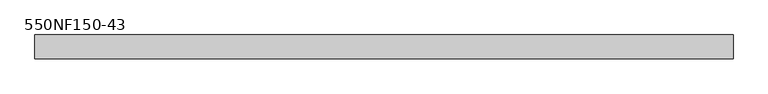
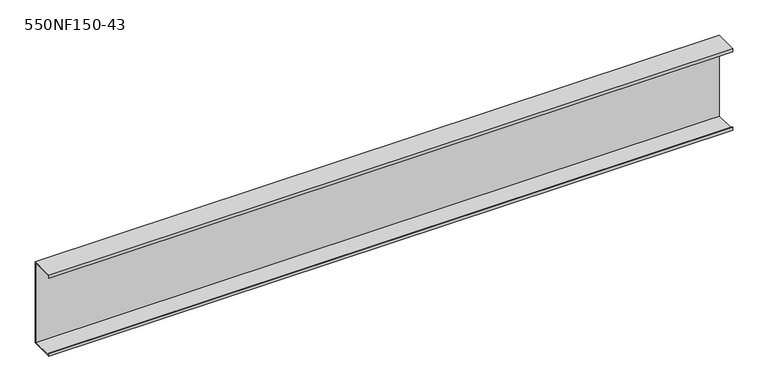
"""IFC4 building model written with IfcOpenShell, lengths in millimetres: beam geometry, BIMSF-SSMA-S : 550NF150-43."""

import ifcopenshell
import ifcopenshell.guid

model = None  # the IFC model being written
_history = None  # IfcOwnerHistory: only IFC2X3 demands one
_inside = {}  # id of a spatial element -> (the spatial element, [elements in it])
_under = {}  # id of a project, library or spatial element -> (it, [spatial elements below it])
_declared = {}  # id of a project -> (the project, [libraries it declares])
_typed = {}  # id of a type object -> (the type object, [elements of that type])
_made_of = {}  # id of a material, layer set ... -> (it, [elements and type objects made of it])


def new_model(schema):
    """Start an empty IFC model of exactly this schema.

    Asked for "IFC4X3", IfcOpenShell would pick the latest addendum, in which some entities
    have other attributes; the version numbers below select the first issue.
    IFC2X3 requires an IfcOwnerHistory on every rooted entity: one is made here for all.
    """
    global model, _history
    if schema == "IFC4X3":
        model = ifcopenshell.file(schema_version=(4, 3, 0, 0))
    else:
        model = ifcopenshell.file(schema=schema)
    _inside.clear()
    _under.clear()
    _declared.clear()
    _typed.clear()
    _made_of.clear()
    _history = None
    if model.schema == "IFC2X3":
        org = make("IfcOrganization", Name="unknown")
        user = make(
            "IfcPersonAndOrganization",
            ThePerson=make("IfcPerson", FamilyName="unknown"),
            TheOrganization=org,
        )
        app = make(
            "IfcApplication",
            ApplicationDeveloper=org,
            Version="unknown",
            ApplicationFullName="unknown",
            ApplicationIdentifier="unknown",
        )
        _history = make(
            "IfcOwnerHistory",
            OwningUser=user,
            OwningApplication=app,
            ChangeAction="ADDED",
            CreationDate=0,
        )
    return model


def make(cls, **values):
    """One entity of the class cls with the attributes given. An attribute that is None is left unset."""
    return model.create_entity(
        cls, **{name: value for name, value in values.items() if value is not None}
    )


def rooted(cls, **values):
    """An entity with a GlobalId (a new one), such as an element, a storey or a relation."""
    return make(cls, GlobalId=ifcopenshell.guid.new(), OwnerHistory=_history, **values)


def si_unit(unit_type, name, prefix=None):
    """IfcSIUnit, for example si_unit("LENGTHUNIT", "METRE", prefix="MILLI")."""
    return make("IfcSIUnit", UnitType=unit_type, Prefix=prefix, Name=name)


def assignment(units):
    """IfcUnitAssignment: the units of a project."""
    return None if units is None else make("IfcUnitAssignment", Units=units)


def point(xyz):
    """IfcCartesianPoint."""
    return None if xyz is None else make("IfcCartesianPoint", Coordinates=xyz)


def direction(xyz):
    """IfcDirection."""
    return None if xyz is None else make("IfcDirection", DirectionRatios=xyz)


def frame(location, z_axis=None, x_axis=None):
    """IfcAxis2Placement3D, a coordinate frame: its origin and axes. An axis left out is left unset."""
    return make(
        "IfcAxis2Placement3D",
        Location=point(location),
        Axis=direction(z_axis),
        RefDirection=direction(x_axis),
    )


def origin():
    """The frame at (0, 0, 0) with its axes left unset."""
    return frame((0.0, 0.0, 0.0))


def place(relative_to, where):
    """IfcLocalPlacement: puts the frame where relative to a parent placement (None: the world)."""
    return make(
        "IfcLocalPlacement", PlacementRelTo=relative_to, RelativePlacement=where
    )


def context(
    kind, dimensions, precision=None, world=None, true_north=None, identifier=None
):
    """IfcGeometricRepresentationContext, for example the 3D "Model" context."""
    return make(
        "IfcGeometricRepresentationContext",
        ContextIdentifier=identifier,
        ContextType=kind,
        CoordinateSpaceDimension=dimensions,
        Precision=precision,
        WorldCoordinateSystem=world,
        TrueNorth=true_north,
    )


def project(units=None, contexts=None):
    """IfcProject with its units and contexts."""
    return rooted(
        "IfcProject",
        Name="project",
        RepresentationContexts=contexts,
        UnitsInContext=assignment(units),
    )


def spatial(cls, under=None, at=None, **own):
    """A site, building, storey or space (cls), placed at a placement, below another one or the project."""
    s = rooted(cls, ObjectPlacement=at, **own)
    if under is not None:
        _under.setdefault(under.id(), (under, []))[1].append(s)
    return s


def polyline(points):
    """IfcPolyline through the points."""
    return make("IfcPolyline", Points=[point(p) for p in points])


def outline(outer, holes=None, kind="AREA"):
    """IfcArbitraryClosedProfileDef: a profile drawn as a closed curve; with holes, ...WithVoids."""
    if holes is None:
        return make("IfcArbitraryClosedProfileDef", ProfileType=kind, OuterCurve=outer)
    return make(
        "IfcArbitraryProfileDefWithVoids",
        ProfileType=kind,
        OuterCurve=outer,
        InnerCurves=holes,
    )


def extrude(swept, where, along, depth):
    """IfcExtrudedAreaSolid: the profile swept, set in the frame where, extruded along a direction by depth."""
    return make(
        "IfcExtrudedAreaSolid",
        SweptArea=swept,
        Position=where,
        ExtrudedDirection=direction(along),
        Depth=depth,
    )


def shape(context_of_items, identifier, shape_type, items):
    """IfcShapeRepresentation: the items that make up one representation, for example the "Body"."""
    return make(
        "IfcShapeRepresentation",
        ContextOfItems=context_of_items,
        RepresentationIdentifier=identifier,
        RepresentationType=shape_type,
        Items=items,
    )


def source(mapping_origin, context_of_items, identifier, shape_type, items):
    """IfcRepresentationMap: a shape defined once, which mapped items show again and again."""
    return make(
        "IfcRepresentationMap",
        MappingOrigin=mapping_origin,
        MappedRepresentation=shape(context_of_items, identifier, shape_type, items),
    )


def transform(
    local_origin,
    x_axis=None,
    y_axis=None,
    z_axis=None,
    scale=None,
    scale2=None,
    scale3=None,
    uniform=True,
):
    """IfcCartesianTransformationOperator3D, or its non-uniform kind. x_axis, y_axis, z_axis: its Axis1, 2, 3."""
    if uniform:
        return make(
            "IfcCartesianTransformationOperator3D",
            Axis1=direction(x_axis),
            Axis2=direction(y_axis),
            LocalOrigin=point(local_origin),
            Scale=scale,
            Axis3=direction(z_axis),
        )
    return make(
        "IfcCartesianTransformationOperator3DnonUniform",
        Axis1=direction(x_axis),
        Axis2=direction(y_axis),
        LocalOrigin=point(local_origin),
        Scale=scale,
        Axis3=direction(z_axis),
        Scale2=scale2,
        Scale3=scale3,
    )


def mapped(mapping_source, mapping_target):
    """IfcMappedItem: shows the shape of a source again, moved by a transform."""
    return make(
        "IfcMappedItem", MappingSource=mapping_source, MappingTarget=mapping_target
    )


def made_of(thing, what):
    """Note that an element or type object is made of a material, layer set ...; save() writes the relation."""
    if what is not None:
        _made_of.setdefault(what.id(), (what, []))[1].append(thing)
    return thing


def element(
    cls,
    number,
    at=None,
    inside=None,
    cuts=None,
    type_object=None,
    material=None,
    context=None,
    identifier="Body",
    shape_type=None,
    held_by="IfcProductDefinitionShape",
    body=None,
    shapes=None,
    **own,
):
    """One element of the class cls, such as IfcWall. Its Tag is "e" and its number.

    at: its placement. inside: the storey or other place that contains it. cuts: it is an
    opening in that element (IfcRelVoidsElement). A single representation is given by context,
    identifier, shape_type and body (its items); several are given by shapes. held_by: the class
    of the entity that holds the representations. save() writes the other relations.
    """
    e = rooted(cls, Tag="e%d" % number, ObjectPlacement=at, **own)
    if body is not None:
        shapes = [shape(context, identifier, shape_type, body)]
    if shapes is not None:
        e.Representation = make(held_by, Representations=shapes)
    if inside is not None:
        _inside.setdefault(inside.id(), (inside, []))[1].append(e)
    if cuts is not None:
        rooted(
            "IfcRelVoidsElement", RelatingBuildingElement=cuts, RelatedOpeningElement=e
        )
    if type_object is not None:
        _typed.setdefault(type_object.id(), (type_object, []))[1].append(e)
    return made_of(e, material)


def aggregate(whole, parts):
    """IfcRelAggregates: a whole, such as a stair, and the parts it consists of."""
    return rooted("IfcRelAggregates", RelatingObject=whole, RelatedObjects=parts)


def save(model, path):
    """Write the relations noted so far, then the file.

    IfcRelAggregates (storeys below a building ...), IfcRelContainedInSpatialStructure (elements
    in a storey), IfcRelDefinesByType, IfcRelAssociatesMaterial and IfcRelDeclares: one each for
    every whole, place, type object, material and project.
    """
    for whole, parts in _under.values():
        aggregate(whole, parts)
    for where, things in _inside.values():
        rooted(
            "IfcRelContainedInSpatialStructure",
            RelatedElements=things,
            RelatingStructure=where,
        )
    for kind, things in _typed.values():
        rooted("IfcRelDefinesByType", RelatedObjects=things, RelatingType=kind)
    for what, things in _made_of.values():
        rooted("IfcRelAssociatesMaterial", RelatedObjects=things, RelatingMaterial=what)
    for by, libraries in _declared.values():
        rooted("IfcRelDeclares", RelatingContext=by, RelatedDefinitions=libraries)
    model.write(path)


def beam_550nf150_43_e6c4ef75(model_context):
    return source(origin(), model_context, "Body", "SweptSolid", [
        extrude(outline(polyline([(19.05, 69.85), (19.05, -69.85), (-19.05, -69.85), (-19.05, -65.0748), (-17.9003158, -65.0748), (-17.9003158, -68.7003158), (17.9003158, -68.7003158), (17.9003158, 68.7003158), (-17.9003158, 68.7003158), (-17.9003158, 65.0748), (-19.05, 65.0748), (-19.05, 69.85), (19.05, 69.85)])), frame((-556.41875, 0.0, 0.0), z_axis=(1.0, 0.0, 0.0), x_axis=(0.0, 1.0, 0.0)), (0.0, 0.0, 1.0), 1112.8375),
    ])


if __name__ == "__main__":
    model = new_model("IFC4")
    model_context = context("Model", 3, world=origin())
    ifc_project = project(units=[si_unit("LENGTHUNIT", "METRE", prefix="MILLI")], contexts=[model_context])
    site = spatial("IfcSite", under=ifc_project)
    building = spatial("IfcBuilding", under=site)
    placement = place(None, origin())
    beam_550nf150_43_shape = beam_550nf150_43_e6c4ef75(model_context)
    element("IfcBeam", 1, ObjectType="BIMSF-SSMA-S : 550NF150-43", at=placement, inside=building, context=model_context, shape_type="MappedRepresentation", body=[
        mapped(beam_550nf150_43_shape, transform((0.0, 0.0, 0.0), x_axis=(1.0, 0.0, 0.0), y_axis=(0.0, 1.0, 0.0), z_axis=(0.0, 0.0, 1.0))),
    ])
    save(model, "model.ifc")
